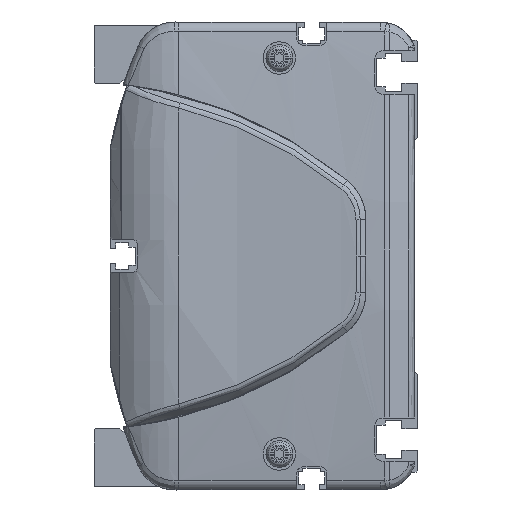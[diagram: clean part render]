
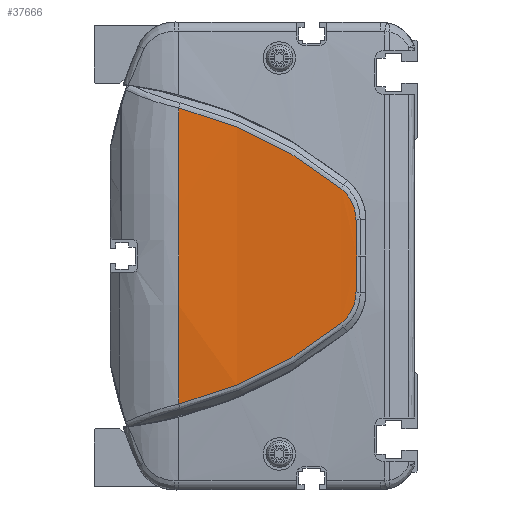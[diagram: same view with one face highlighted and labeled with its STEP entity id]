
A CAD part, left-side view. The second image highlights one B-rep face of the part: STEP entity #37666.
In plain terms, the highlighted cylindrical face has radius 500 mm (diameter 1000 mm), a partial arc.
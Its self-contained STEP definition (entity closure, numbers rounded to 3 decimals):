
#33907=CARTESIAN_POINT('',(486.,66.362,0.));
#33908=DIRECTION('',(0.,-1.,0.));
#33909=DIRECTION('',(-0.997,0.,0.082));
#33910=AXIS2_PLACEMENT_3D('',#33907,#33908,#33909);
#34784=CARTESIAN_POINT('',(-13.648,21.313,
-18.759));
#34785=CARTESIAN_POINT('',(-13.449,27.904,
-24.058));
#34786=CARTESIAN_POINT('',(-12.934,42.195,
-33.27));
#34787=CARTESIAN_POINT('',(-12.471,58.156,
-39.127));
#34788=CARTESIAN_POINT('',(-12.306,66.362,
-41.121));
#34790=CARTESIAN_POINT('',(-12.306,66.362,
41.121));
#34791=CARTESIAN_POINT('',(-12.471,58.156,
39.127));
#34792=CARTESIAN_POINT('',(-12.934,42.195,
33.27));
#34793=CARTESIAN_POINT('',(-13.449,27.904,
24.058));
#34794=CARTESIAN_POINT('',(-13.648,21.313,
18.759));
#34796=CARTESIAN_POINT('',(-13.648,21.313,
18.759));
#34797=CARTESIAN_POINT('',(-13.686,20.035,
17.736));
#34798=CARTESIAN_POINT('',(-13.779,17.936,
15.107));
#34799=CARTESIAN_POINT('',(-13.863,17.152,
11.827));
#34800=CARTESIAN_POINT('',(-13.896,17.124,
10.178));
#34802=CARTESIAN_POINT('',(-13.896,17.124,
10.178));
#34803=CARTESIAN_POINT('',(-13.92,17.107,
9.026));
#34804=CARTESIAN_POINT('',(-13.959,17.067,
6.734));
#34805=CARTESIAN_POINT('',(-13.993,16.98,
3.34));
#34806=CARTESIAN_POINT('',(-14.,16.898,
1.108));
#34807=CARTESIAN_POINT('',(-14.,16.849,
0.));
#34809=CARTESIAN_POINT('',(-14.,16.849,
0.));
#34810=CARTESIAN_POINT('',(-14.,16.898,
-1.108));
#34811=CARTESIAN_POINT('',(-13.993,16.98,
-3.34));
#34812=CARTESIAN_POINT('',(-13.959,17.067,
-6.733));
#34813=CARTESIAN_POINT('',(-13.92,17.107,
-9.027));
#34814=CARTESIAN_POINT('',(-13.896,17.124,
-10.18));
#34816=CARTESIAN_POINT('',(-13.896,17.124,
-10.18));
#34817=CARTESIAN_POINT('',(-13.863,17.152,
-11.828));
#34818=CARTESIAN_POINT('',(-13.779,17.937,
-15.109));
#34819=CARTESIAN_POINT('',(-13.686,20.035,
-17.736));
#34820=CARTESIAN_POINT('',(-13.648,21.313,
-18.759));
#35486=VERTEX_POINT('',#34784);
#35487=VERTEX_POINT('',#34788);
#35488=CARTESIAN_POINT('',(-12.306,66.362,
41.121));
#35489=VERTEX_POINT('',#35488);
#35490=VERTEX_POINT('',#34794);
#35491=VERTEX_POINT('',#34800);
#35492=VERTEX_POINT('',#34807);
#35493=VERTEX_POINT('',#34814);
#37647=CARTESIAN_POINT('',(486.,8.006,0.));
#37648=DIRECTION('',(0.,1.,0.));
#37649=DIRECTION('',(1.,0.,0.));
#37650=AXIS2_PLACEMENT_3D('',#37647,#37648,#37649);
#37651=CYLINDRICAL_SURFACE('',#37650,500.);
#37653=ORIENTED_EDGE('',*,*,#37652,.T.);
#37654=ORIENTED_EDGE('',*,*,#36287,.F.);
#37656=ORIENTED_EDGE('',*,*,#37655,.T.);
#37658=ORIENTED_EDGE('',*,*,#37657,.T.);
#37660=ORIENTED_EDGE('',*,*,#37659,.T.);
#37662=ORIENTED_EDGE('',*,*,#37661,.T.);
#37663=ORIENTED_EDGE('',*,*,#37637,.T.);
#37664=EDGE_LOOP('',(#37653,#37654,#37656,#37658,#37660,#37662,#37663));
#37665=FACE_OUTER_BOUND('',#37664,.F.);
#37666=ADVANCED_FACE('',(#37665),#37651,.T.);
#33911=CIRCLE('',#33910,500.);
#34789=B_SPLINE_CURVE_WITH_KNOTS('',3,(#34784,#34785,#34786,#34787,#34788),
.UNSPECIFIED.,.F.,.F.,(4,1,4),(0.,0.5,1.),.UNSPECIFIED.);
#34795=B_SPLINE_CURVE_WITH_KNOTS('',3,(#34790,#34791,#34792,#34793,#34794),
.UNSPECIFIED.,.F.,.F.,(4,1,4),(0.,0.5,1.),.UNSPECIFIED.);
#34801=B_SPLINE_CURVE_WITH_KNOTS('',3,(#34796,#34797,#34798,#34799,#34800),
.UNSPECIFIED.,.F.,.F.,(4,1,4),(0.,0.5,1.),.UNSPECIFIED.);
#34808=B_SPLINE_CURVE_WITH_KNOTS('',3,(#34802,#34803,#34804,#34805,#34806,
#34807),.UNSPECIFIED.,.F.,.F.,(4,1,1,4),(0.,0.333,
0.667,1.),.UNSPECIFIED.);
#34815=B_SPLINE_CURVE_WITH_KNOTS('',3,(#34809,#34810,#34811,#34812,#34813,
#34814),.UNSPECIFIED.,.F.,.F.,(4,1,1,4),(0.,0.333,
0.667,1.),.UNSPECIFIED.);
#34821=B_SPLINE_CURVE_WITH_KNOTS('',3,(#34816,#34817,#34818,#34819,#34820),
.UNSPECIFIED.,.F.,.F.,(4,1,4),(0.,0.5,1.),.UNSPECIFIED.);
#36287=EDGE_CURVE('',#35489,#35487,#33911,.T.);
#37637=EDGE_CURVE('',#35493,#35486,#34821,.T.);
#37652=EDGE_CURVE('',#35486,#35487,#34789,.T.);
#37655=EDGE_CURVE('',#35489,#35490,#34795,.T.);
#37657=EDGE_CURVE('',#35490,#35491,#34801,.T.);
#37659=EDGE_CURVE('',#35491,#35492,#34808,.T.);
#37661=EDGE_CURVE('',#35492,#35493,#34815,.T.);
